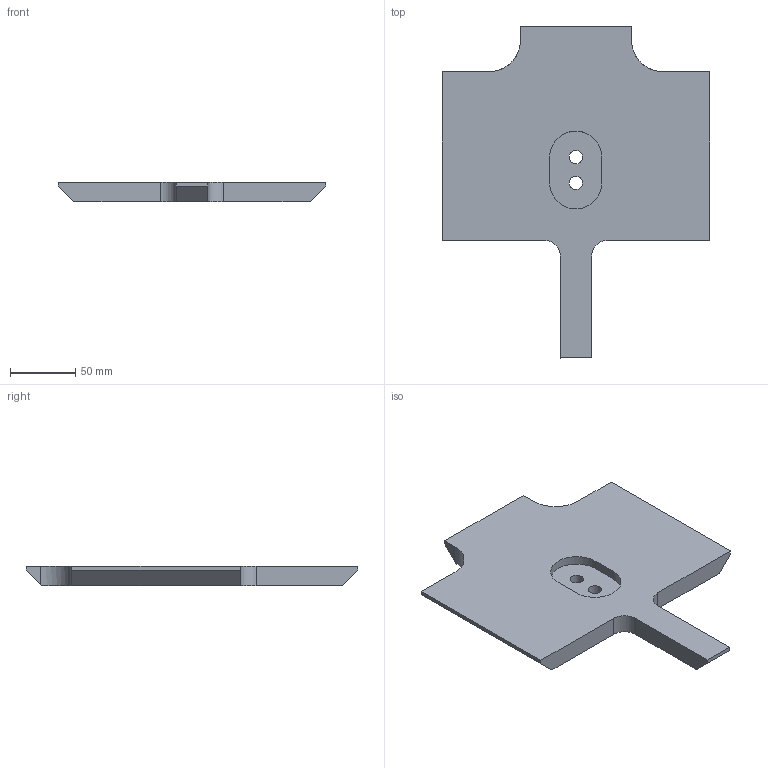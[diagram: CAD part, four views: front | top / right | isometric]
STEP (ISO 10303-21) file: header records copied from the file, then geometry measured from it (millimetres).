
FILE_DESCRIPTION(/* description */ ('','CAx-IF Rec.Pracs.---Representation and Presentation of Product Manufacturing Information (PMI)---4.0---2014-10-13'),/* implementation_level */ '2;1');
FILE_NAME(/* name */ 'TP-Stiff-Base-Adapter-15mm.step',/* time_stamp */ '2024-12-17T12:25:41+01:00',/* author */ (''),/* organization */ (''),/* preprocessor_version */ 'ST-DEVELOPER v20',/* originating_system */ 'Autodesk Translation Framework v13.20.0.188',/* authorisation */ '');
FILE_SCHEMA (('AP242_MANAGED_MODEL_BASED_3D_ENGINEERING_MIM_LF { 1 0 10303 442 1 1 4 }'));
Length unit declared in the file: millimetre
Products named in the file (1): Stiffening Base Adapter
Bounding box: 205 x 254 x 15 mm (x, y, z)
Volume: 436328.3 mm3; surface area: 75270.8 mm2
Topology: 1 solids, 1 shells, 29 faces, 78 edges, 52 vertices
Faces by surface type: plane 21, cylinder 8
Full cylindrical faces by diameter (mm): 10.1 x2
Entity records: 951 total; most frequent: CARTESIAN_POINT 160, ORIENTED_EDGE 156, DIRECTION 156, EDGE_CURVE 78, LINE 60, VECTOR 60, VERTEX_POINT 52, AXIS2_PLACEMENT_3D 48
